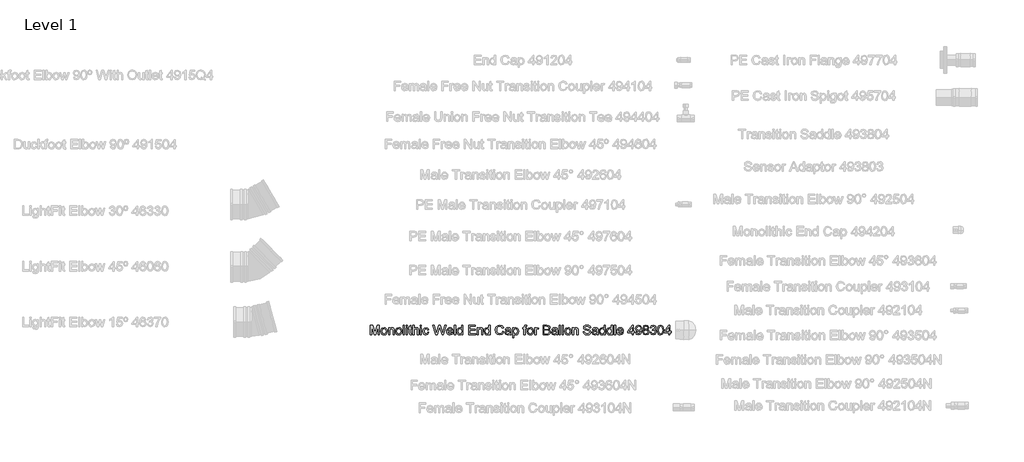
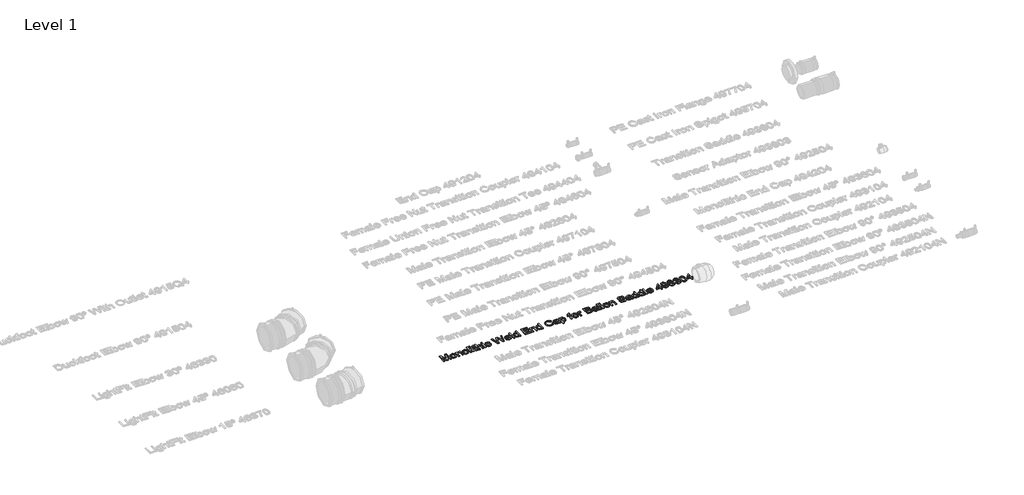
# One storey, part 21 of 38: 1 proxy.
"""IFC4 building model written with IfcOpenShell, lengths in millimetres."""

from ifc_helpers import new_model, si_unit, origin, origin_with_axes, place, context, project, spatial, polyline, outline, extrude, element, save

model = new_model("IFC4")

# Units and contexts
model_context = context("Model", 3, world=origin())
ifc_project = project(units=[si_unit("LENGTHUNIT", "METRE", prefix="MILLI")], contexts=[model_context])

# Site, building, storey
site = spatial("IfcSite", under=ifc_project)
building = spatial("IfcBuilding", under=site)
storey = spatial("IfcBuildingStorey", under=building, Name="Level 1", Elevation=0.0)

# Proxy
placement = place(None, origin())
element("IfcBuildingElementProxy", 1, Name="100 mm Arial", ObjectType="100 mm Arial", at=placement, inside=storey, context=model_context, shape_type="SweptSolid", body=[
    extrude(outline(polyline([(15387.7364754, 3414.6281205), (15387.7364754, 3473.7050436), (15400.4432062, 3473.7050436), (15412.5297447, 3432.0656205), (15414.9672447, 3423.3685051), (15417.6066677, 3432.7867743), (15429.4912831, 3473.7050436), (15442.1980139, 3473.7050436), (15442.1980139, 3414.6281205), (15434.8133985, 3414.6281205), (15434.8133985, 3466.3204282), (15419.9720524, 3414.6281205), (15409.962437, 3414.6281205), (15395.1210908, 3466.3204282), (15395.1210908, 3414.6281205), (15387.7364754, 3414.6281205)])), origin_with_axes(), (0.0, 0.0, 1.0), 5.0),
    extrude(outline(polyline([(15452.3518601, 3436.3204282), (15453.9492158, 3446.7807647), (15458.7412831, 3454.1329282), (15471.7508985, 3458.9358128), (15479.508711, 3457.4736734), (15485.7052254, 3453.0872551), (15489.7671245, 3446.1227118), (15491.1210908, 3436.9261974), (15488.7268601, 3423.7867743), (15481.7533024, 3416.3516782), (15471.7508985, 3413.7050436), (15463.899336, 3415.1617743), (15457.7100331, 3419.5319666), (15453.6914033, 3426.6425436), (15452.3518601, 3436.3204282)]), holes=[polyline([(15459.7364754, 3436.3348513), (15463.1547447, 3424.8901397), (15471.7508985, 3421.0896589), (15480.3182062, 3424.9117743), (15483.7364754, 3436.5656205), (15480.2965716, 3447.7507166), (15471.7508985, 3451.5511974), (15463.1547447, 3447.7651397), (15459.7364754, 3436.3348513)])]), origin_with_axes(), (0.0, 0.0, 1.0), 5.0),
    extrude(outline(polyline([(15499.4287831, 3414.6281205), (15499.4287831, 3458.0127359), (15506.8133985, 3458.0127359), (15506.8133985, 3451.9550436), (15512.4600331, 3457.1906205), (15520.1691677, 3458.9358128), (15527.1427254, 3457.5295628), (15531.9023408, 3453.8372551), (15534.1162831, 3448.4069666), (15534.5057062, 3441.2675436), (15534.5057062, 3414.6281205), (15527.1210908, 3414.6281205), (15527.1210908, 3440.2723513), (15526.2701293, 3446.8060051), (15523.2629177, 3450.260332), (15518.1932062, 3451.5511974), (15510.181187, 3448.6521589), (15506.8133985, 3437.6473513), (15506.8133985, 3414.6281205), (15499.4287831, 3414.6281205)])), origin_with_axes(), (0.0, 0.0, 1.0), 5.0),
    extrude(outline(polyline([(15542.8133985, 3436.3204282), (15544.4107543, 3446.7807647), (15549.2028216, 3454.1329282), (15562.212437, 3458.9358128), (15569.9702495, 3457.4736734), (15576.1667639, 3453.0872551), (15580.2286629, 3446.1227118), (15581.5826293, 3436.9261974), (15579.1883985, 3423.7867743), (15572.2148408, 3416.3516782), (15562.212437, 3413.7050436), (15554.3608745, 3415.1617743), (15548.1715716, 3419.5319666), (15544.1529418, 3426.6425436), (15542.8133985, 3436.3204282)]), holes=[polyline([(15550.1980139, 3436.3348513), (15553.6162831, 3424.8901397), (15562.212437, 3421.0896589), (15570.7797447, 3424.9117743), (15574.1980139, 3436.5656205), (15570.7581101, 3447.7507166), (15562.212437, 3451.5511974), (15553.6162831, 3447.7651397), (15550.1980139, 3436.3348513)])]), origin_with_axes(), (0.0, 0.0, 1.0), 5.0),
    extrude(outline(polyline([(15589.8903216, 3414.6281205), (15589.8903216, 3473.7050436), (15597.274937, 3473.7050436), (15597.274937, 3414.6281205), (15589.8903216, 3414.6281205)])), origin_with_axes(), (0.0, 0.0, 1.0), 5.0),
    extrude(outline(polyline([(15608.3518601, 3466.3204282), (15608.3518601, 3473.7050436), (15615.7364754, 3473.7050436), (15615.7364754, 3466.3204282), (15608.3518601, 3466.3204282)])), origin_with_axes(), (0.0, 0.0, 1.0), 5.0),
    extrude(outline(polyline([(15608.3518601, 3414.6281205), (15608.3518601, 3458.0127359), (15615.7364754, 3458.0127359), (15615.7364754, 3414.6281205), (15608.3518601, 3414.6281205)])), origin_with_axes(), (0.0, 0.0, 1.0), 5.0),
    extrude(outline(polyline([(15642.5057062, 3420.7867743), (15643.4287831, 3414.4117743), (15637.9047447, 3413.7050436), (15631.7172447, 3414.9310051), (15628.6307062, 3418.1473513), (15627.7364754, 3426.5271589), (15627.7364754, 3450.6281205), (15622.1980139, 3450.6281205), (15622.1980139, 3458.0127359), (15627.7364754, 3458.0127359), (15627.7364754, 3468.5560051), (15635.1210908, 3472.8973513), (15635.1210908, 3458.0127359), (15642.5057062, 3458.0127359), (15642.5057062, 3450.6281205), (15635.1210908, 3450.6281205), (15635.1210908, 3426.7435051), (15635.5105139, 3422.9358128), (15636.7725331, 3421.5872551), (15639.2893601, 3421.0896589), (15642.5057062, 3420.7867743)])), origin_with_axes(), (0.0, 0.0, 1.0), 5.0),
    extrude(outline(polyline([(15649.8903216, 3414.6281205), (15649.8903216, 3473.7050436), (15657.274937, 3473.7050436), (15657.274937, 3451.9838897), (15663.0333504, 3457.197832), (15670.1258985, 3458.9358128), (15678.4191677, 3457.0391782), (15683.4528216, 3451.7963897), (15684.9672447, 3442.0896589), (15684.9672447, 3414.6281205), (15677.5826293, 3414.6281205), (15677.5826293, 3441.3252359), (15675.2316677, 3449.1136974), (15668.5682062, 3451.5511974), (15662.5177254, 3449.9069666), (15658.4792639, 3445.4502359), (15657.274937, 3437.6761974), (15657.274937, 3414.6281205), (15649.8903216, 3414.6281205)])), origin_with_axes(), (0.0, 0.0, 1.0), 5.0),
    extrude(outline(polyline([(15695.1210908, 3466.3204282), (15695.1210908, 3473.7050436), (15702.5057062, 3473.7050436), (15702.5057062, 3466.3204282), (15695.1210908, 3466.3204282)])), origin_with_axes(), (0.0, 0.0, 1.0), 5.0),
    extrude(outline(polyline([(15695.1210908, 3414.6281205), (15695.1210908, 3458.0127359), (15702.5057062, 3458.0127359), (15702.5057062, 3414.6281205), (15695.1210908, 3414.6281205)])), origin_with_axes(), (0.0, 0.0, 1.0), 5.0),
    extrude(outline(polyline([(15741.274937, 3430.3204282), (15748.6595524, 3429.3973513), (15742.7316677, 3417.8661013), (15731.0201293, 3413.7050436), (15723.164961, 3415.1563657), (15717.0225331, 3419.510332), (15713.0579899, 3426.5758368), (15711.7364754, 3436.1617743), (15713.993687, 3448.4286013), (15720.8734947, 3456.3108128), (15730.9191677, 3458.9358128), (15742.1475331, 3455.3300436), (15747.7364754, 3445.0896589), (15740.3518601, 3444.166582), (15736.9263793, 3449.697832), (15730.9768601, 3451.5511974), (15722.4167639, 3447.9021589), (15719.1210908, 3436.3636974), (15722.3446485, 3424.7170628), (15730.774937, 3421.0896589), (15737.7340716, 3423.354082), (15741.274937, 3430.3204282)])), origin_with_axes(), (0.0, 0.0, 1.0), 5.0),
    extrude(outline(polyline([(15789.6932062, 3414.6281205), (15773.5826293, 3473.7050436), (15781.1980139, 3473.7050436), (15790.5441677, 3434.8781205), (15793.4287831, 3422.8925436), (15796.5153216, 3433.4935051), (15808.2268601, 3473.7050436), (15819.2028216, 3473.7050436), (15827.712437, 3444.5560051), (15834.0441677, 3422.8925436), (15836.8422447, 3434.5319666), (15846.274937, 3473.7050436), (15853.8903216, 3473.7050436), (15837.7653216, 3414.6281205), (15829.8758985, 3414.6281205), (15815.712437, 3460.2050436), (15813.7364754, 3466.5656205), (15811.5153216, 3458.9069666), (15798.6066677, 3414.6281205), (15789.6932062, 3414.6281205)])), origin_with_axes(), (0.0, 0.0, 1.0), 5.0),
    extrude(outline(polyline([(15890.7268601, 3427.5511974), (15897.9672447, 3426.6281205), (15891.1956101, 3417.0944666), (15878.5826293, 3413.7050436), (15869.9179658, 3415.167183), (15863.2508985, 3419.5536013), (15858.9996966, 3426.5794426), (15857.5826293, 3435.9598513), (15859.0141197, 3445.6557647), (15863.3085908, 3452.9069666), (15869.8855139, 3457.4286013), (15878.1643601, 3458.9358128), (15886.1853937, 3457.432207), (15892.5946485, 3452.9213897), (15896.7971726, 3445.6846109), (15898.1980139, 3436.0031205), (15898.1547447, 3434.0127359), (15864.9672447, 3434.0127359), (15869.2148408, 3424.4213897), (15878.7268601, 3421.0896589), (15885.9672447, 3422.6329282), (15890.7268601, 3427.5511974)]), holes=[polyline([(15864.9672447, 3441.3973513), (15890.8133985, 3441.3973513), (15887.8566677, 3448.0896589), (15878.1355139, 3451.5511974), (15869.0417639, 3448.7891782), (15864.9672447, 3441.3973513)])]), origin_with_axes(), (0.0, 0.0, 1.0), 5.0),
    extrude(outline(polyline([(15905.5826293, 3414.6281205), (15905.5826293, 3473.7050436), (15912.9672447, 3473.7050436), (15912.9672447, 3414.6281205), (15905.5826293, 3414.6281205)])), origin_with_axes(), (0.0, 0.0, 1.0), 5.0),
    extrude(outline(polyline([(15950.8133985, 3414.6281205), (15950.8133985, 3421.5944666), (15945.9275812, 3415.6773993), (15939.1739754, 3413.7050436), (15930.0297447, 3416.5608128), (15923.5682062, 3424.5295628), (15921.274937, 3436.2771589), (15923.3879177, 3448.0319666), (15929.7196485, 3456.1233128), (15939.1451293, 3458.9358128), (15945.9528216, 3456.9237936), (15950.8133985, 3451.6954282), (15950.8133985, 3473.7050436), (15958.1980139, 3473.7050436), (15958.1980139, 3414.6281205), (15950.8133985, 3414.6281205)]), holes=[polyline([(15928.6595524, 3436.3060051), (15931.9912831, 3424.8757166), (15939.8518601, 3421.0896589), (15947.618687, 3424.7026397), (15950.8133985, 3435.7435051), (15947.5609947, 3447.729082), (15939.5489754, 3451.5511974), (15931.774937, 3447.8805243), (15928.6595524, 3436.3060051)])]), origin_with_axes(), (0.0, 0.0, 1.0), 5.0),
    extrude(outline(polyline([(15993.274937, 3414.6281205), (15993.274937, 3473.7050436), (16035.7364754, 3473.7050436), (16035.7364754, 3466.3204282), (16000.6595524, 3466.3204282), (16000.6595524, 3448.7819666), (16033.8903216, 3448.7819666), (16033.8903216, 3441.3973513), (16000.6595524, 3441.3973513), (16000.6595524, 3422.0127359), (16036.6595524, 3422.0127359), (16036.6595524, 3414.6281205), (15993.274937, 3414.6281205)])), origin_with_axes(), (0.0, 0.0, 1.0), 5.0),
    extrude(outline(polyline([(16046.8133985, 3414.6281205), (16046.8133985, 3458.0127359), (16054.1980139, 3458.0127359), (16054.1980139, 3451.9550436), (16059.8446485, 3457.1906205), (16067.5537831, 3458.9358128), (16074.5273408, 3457.5295628), (16079.2869562, 3453.8372551), (16081.5008985, 3448.4069666), (16081.8903216, 3441.2675436), (16081.8903216, 3414.6281205), (16074.5057062, 3414.6281205), (16074.5057062, 3440.2723513), (16073.6547447, 3446.8060051), (16070.6475331, 3450.260332), (16065.5778216, 3451.5511974), (16057.5658024, 3448.6521589), (16054.1980139, 3437.6473513), (16054.1980139, 3414.6281205), (16046.8133985, 3414.6281205)])), origin_with_axes(), (0.0, 0.0, 1.0), 5.0),
    extrude(outline(polyline([(16118.8133985, 3414.6281205), (16118.8133985, 3421.5944666), (16113.9275812, 3415.6773993), (16107.1739754, 3413.7050436), (16098.0297447, 3416.5608128), (16091.5682062, 3424.5295628), (16089.274937, 3436.2771589), (16091.3879177, 3448.0319666), (16097.7196485, 3456.1233128), (16107.1451293, 3458.9358128), (16113.9528216, 3456.9237936), (16118.8133985, 3451.6954282), (16118.8133985, 3473.7050436), (16126.1980139, 3473.7050436), (16126.1980139, 3414.6281205), (16118.8133985, 3414.6281205)]), holes=[polyline([(16096.6595524, 3436.3060051), (16099.9912831, 3424.8757166), (16107.8518601, 3421.0896589), (16115.618687, 3424.7026397), (16118.8133985, 3435.7435051), (16115.5609947, 3447.729082), (16107.5489754, 3451.5511974), (16099.774937, 3447.8805243), (16096.6595524, 3436.3060051)])]), origin_with_axes(), (0.0, 0.0, 1.0), 5.0),
    extrude(outline(polyline([(16202.8133985, 3435.6281205), (16210.1980139, 3433.7242743), (16201.4432062, 3418.8324474), (16185.9816677, 3413.7050436), (16170.6138793, 3417.5848513), (16161.5994562, 3428.8204282), (16158.5057062, 3444.6136974), (16162.0033024, 3460.666582), (16171.9480139, 3471.072832), (16186.1403216, 3474.6281205), (16200.931187, 3470.0271589), (16209.274937, 3457.0752359), (16201.8903216, 3455.3156205), (16195.8326293, 3464.3949474), (16185.8518601, 3467.2435051), (16174.2989754, 3464.0848513), (16167.7725331, 3455.604082), (16165.8903216, 3444.6281205), (16168.118687, 3431.9069666), (16175.056187, 3423.7795628), (16185.2460908, 3421.0896589), (16196.5465716, 3424.7531205), (16202.8133985, 3435.6281205)])), origin_with_axes(), (0.0, 0.0, 1.0), 5.0),
    extrude(outline(polyline([(16247.1210908, 3420.166582), (16239.9600331, 3415.1617743), (16232.0489754, 3413.7050436), (16221.3254177, 3417.2098513), (16217.5826293, 3426.166582), (16218.9960908, 3432.0079282), (16222.7100331, 3436.2483128), (16227.8807062, 3438.6713897), (16234.2701293, 3439.7819666), (16247.0778216, 3442.3204282), (16247.1210908, 3443.9646589), (16245.087437, 3449.416582), (16236.9239754, 3451.5511974), (16229.4528216, 3450.1305243), (16225.8903216, 3445.0896589), (16218.5057062, 3446.0127359), (16221.7004177, 3453.2242743), (16228.1331101, 3457.4502359), (16237.8758985, 3458.9358128), (16246.8254177, 3457.6233128), (16251.8807062, 3454.3276397), (16254.1451293, 3449.3156205), (16254.5057062, 3442.854082), (16254.5057062, 3433.666582), (16254.8807062, 3420.8372551), (16256.3518601, 3414.6281205), (16248.9672447, 3414.6281205), (16247.1210908, 3420.166582)]), holes=[polyline([(16247.1210908, 3434.9358128), (16235.2076293, 3432.6713897), (16228.8542639, 3431.4742743), (16225.9768601, 3429.5271589), (16224.9672447, 3426.6858128), (16227.1667639, 3422.6906205), (16233.6210908, 3421.0896589), (16241.0922447, 3422.8564859), (16245.9095524, 3427.1329282), (16247.0778216, 3432.8444666), (16247.1210908, 3434.9358128)])]), origin_with_axes(), (0.0, 0.0, 1.0), 5.0),
    extrude(outline(polyline([(16264.6595524, 3398.0127359), (16264.6595524, 3458.0127359), (16272.0441677, 3458.0127359), (16272.0441677, 3450.7723513), (16277.149937, 3456.8949474), (16284.0441677, 3458.9358128), (16293.4047447, 3456.0800436), (16299.5201293, 3448.0319666), (16301.5826293, 3436.6521589), (16299.2533024, 3424.6882166), (16292.4888793, 3416.5391782), (16283.149937, 3413.7050436), (16276.7244562, 3415.6016782), (16272.0441677, 3420.3973513), (16272.0441677, 3398.0127359), (16264.6595524, 3398.0127359)]), holes=[polyline([(16272.0441677, 3435.9742743), (16275.2388793, 3424.7242743), (16282.9912831, 3421.0896589), (16290.9023408, 3424.854082), (16294.1980139, 3436.5223513), (16290.9816677, 3447.8011974), (16283.2941677, 3451.5511974), (16275.4552254, 3447.5632166), (16272.0441677, 3435.9742743)])]), origin_with_axes(), (0.0, 0.0, 1.0), 5.0),
    extrude(outline(polyline([(16334.8133985, 3414.6281205), (16334.8133985, 3450.6281205), (16328.3518601, 3450.6281205), (16328.3518601, 3458.0127359), (16334.8133985, 3458.0127359), (16334.8133985, 3462.3829282), (16335.5922447, 3468.541582), (16339.3710908, 3472.9406205), (16346.8133985, 3474.6281205), (16353.5489754, 3473.8204282), (16352.4672447, 3466.8973513), (16348.212437, 3467.2435051), (16343.5609947, 3466.0175436), (16342.1980139, 3461.4454282), (16342.1980139, 3458.0127359), (16350.5057062, 3458.0127359), (16350.5057062, 3450.6281205), (16342.1980139, 3450.6281205), (16342.1980139, 3414.6281205), (16334.8133985, 3414.6281205)])), origin_with_axes(), (0.0, 0.0, 1.0), 5.0),
    extrude(outline(polyline([(16355.1210908, 3436.3204282), (16356.7184466, 3446.7807647), (16361.5105139, 3454.1329282), (16374.5201293, 3458.9358128), (16382.2779418, 3457.4736734), (16388.4744562, 3453.0872551), (16392.5363552, 3446.1227118), (16393.8903216, 3436.9261974), (16391.4960908, 3423.7867743), (16384.5225331, 3416.3516782), (16374.5201293, 3413.7050436), (16366.6685668, 3415.1617743), (16360.4792639, 3419.5319666), (16356.4606341, 3426.6425436), (16355.1210908, 3436.3204282)]), holes=[polyline([(16362.5057062, 3436.3348513), (16365.9239754, 3424.8901397), (16374.5201293, 3421.0896589), (16383.087437, 3424.9117743), (16386.5057062, 3436.5656205), (16383.0658024, 3447.7507166), (16374.5201293, 3451.5511974), (16365.9239754, 3447.7651397), (16362.5057062, 3436.3348513)])]), origin_with_axes(), (0.0, 0.0, 1.0), 5.0),
    extrude(outline(polyline([(16402.1980139, 3414.6281205), (16402.1980139, 3458.0127359), (16408.6595524, 3458.0127359), (16408.6595524, 3451.5944666), (16413.2460908, 3457.5079282), (16417.8614754, 3458.9358128), (16425.274937, 3456.6569666), (16422.8085908, 3450.0367743), (16417.6162831, 3451.5511974), (16413.4408024, 3450.0944666), (16410.7797447, 3446.0560051), (16409.5826293, 3437.4310051), (16409.5826293, 3414.6281205), (16402.1980139, 3414.6281205)])), origin_with_axes(), (0.0, 0.0, 1.0), 5.0),
    extrude(outline(polyline([(16453.8903216, 3414.6281205), (16453.8903216, 3473.7050436), (16476.4335908, 3473.7050436), (16487.4744562, 3471.9670628), (16493.993687, 3466.6233128), (16496.3518601, 3459.0656205), (16494.368687, 3452.1641782), (16488.3758985, 3446.9358128), (16495.6523408, 3441.4261974), (16498.1980139, 3432.2386974), (16496.4600331, 3424.2987936), (16492.1547447, 3418.6449474), (16485.7292639, 3415.6449474), (16476.2605139, 3414.6281205), (16453.8903216, 3414.6281205)]), holes=[polyline([(16461.274937, 3449.7050436), (16474.7605139, 3449.7050436), (16482.6355139, 3450.3396589), (16487.3734947, 3453.072832), (16488.9672447, 3457.8829282), (16487.4816677, 3462.7002359), (16483.2268601, 3465.5487936), (16473.7364754, 3466.3204282), (16461.274937, 3466.3204282), (16461.274937, 3449.7050436)]), polyline([(16461.274937, 3422.0127359), (16476.4191677, 3422.0127359), (16481.899937, 3422.3011974), (16486.5369562, 3423.9093705), (16489.6090716, 3427.1906205), (16490.8133985, 3432.166582), (16489.399937, 3437.9069666), (16484.8206101, 3441.3324474), (16475.6980139, 3442.3204282), (16461.274937, 3442.3204282), (16461.274937, 3422.0127359)])]), origin_with_axes(), (0.0, 0.0, 1.0), 5.0),
    extrude(outline(polyline([(16535.1210908, 3420.166582), (16527.9600331, 3415.1617743), (16520.0489754, 3413.7050436), (16509.3254177, 3417.2098513), (16505.5826293, 3426.166582), (16506.9960908, 3432.0079282), (16510.7100331, 3436.2483128), (16515.8807062, 3438.6713897), (16522.2701293, 3439.7819666), (16535.0778216, 3442.3204282), (16535.1210908, 3443.9646589), (16533.087437, 3449.416582), (16524.9239754, 3451.5511974), (16517.4528216, 3450.1305243), (16513.8903216, 3445.0896589), (16506.5057062, 3446.0127359), (16509.7004177, 3453.2242743), (16516.1331101, 3457.4502359), (16525.8758985, 3458.9358128), (16534.8254177, 3457.6233128), (16539.8807062, 3454.3276397), (16542.1451293, 3449.3156205), (16542.5057062, 3442.854082), (16542.5057062, 3433.666582), (16542.8807062, 3420.8372551), (16544.3518601, 3414.6281205), (16536.9672447, 3414.6281205), (16535.1210908, 3420.166582)]), holes=[polyline([(16535.1210908, 3434.9358128), (16523.2076293, 3432.6713897), (16516.8542639, 3431.4742743), (16513.9768601, 3429.5271589), (16512.9672447, 3426.6858128), (16515.1667639, 3422.6906205), (16521.6210908, 3421.0896589), (16529.0922447, 3422.8564859), (16533.9095524, 3427.1329282), (16535.0778216, 3432.8444666), (16535.1210908, 3434.9358128)])]), origin_with_axes(), (0.0, 0.0, 1.0), 5.0),
    extrude(outline(polyline([(16552.6595524, 3414.6281205), (16552.6595524, 3473.7050436), (16560.0441677, 3473.7050436), (16560.0441677, 3414.6281205), (16552.6595524, 3414.6281205)])), origin_with_axes(), (0.0, 0.0, 1.0), 5.0),
    extrude(outline(polyline([(16571.1210908, 3414.6281205), (16571.1210908, 3473.7050436), (16578.5057062, 3473.7050436), (16578.5057062, 3414.6281205), (16571.1210908, 3414.6281205)])), origin_with_axes(), (0.0, 0.0, 1.0), 5.0),
    extrude(outline(polyline([(16587.7364754, 3436.3204282), (16589.3338312, 3446.7807647), (16594.1258985, 3454.1329282), (16607.1355139, 3458.9358128), (16614.8933264, 3457.4736734), (16621.0898408, 3453.0872551), (16625.1517399, 3446.1227118), (16626.5057062, 3436.9261974), (16624.1114754, 3423.7867743), (16617.1379177, 3416.3516782), (16607.1355139, 3413.7050436), (16599.2839514, 3415.1617743), (16593.0946485, 3419.5319666), (16589.0760187, 3426.6425436), (16587.7364754, 3436.3204282)]), holes=[polyline([(16595.1210908, 3436.3348513), (16598.5393601, 3424.8901397), (16607.1355139, 3421.0896589), (16615.7028216, 3424.9117743), (16619.1210908, 3436.5656205), (16615.681187, 3447.7507166), (16607.1355139, 3451.5511974), (16598.5393601, 3447.7651397), (16595.1210908, 3436.3348513)])]), origin_with_axes(), (0.0, 0.0, 1.0), 5.0),
    extrude(outline(polyline([(16634.8133985, 3414.6281205), (16634.8133985, 3458.0127359), (16642.1980139, 3458.0127359), (16642.1980139, 3451.9550436), (16647.8446485, 3457.1906205), (16655.5537831, 3458.9358128), (16662.5273408, 3457.5295628), (16667.2869562, 3453.8372551), (16669.5008985, 3448.4069666), (16669.8903216, 3441.2675436), (16669.8903216, 3414.6281205), (16662.5057062, 3414.6281205), (16662.5057062, 3440.2723513), (16661.6547447, 3446.8060051), (16658.6475331, 3450.260332), (16653.5778216, 3451.5511974), (16645.5658024, 3448.6521589), (16642.1980139, 3437.6473513), (16642.1980139, 3414.6281205), (16634.8133985, 3414.6281205)])), origin_with_axes(), (0.0, 0.0, 1.0), 5.0),
    extrude(outline(polyline([(16701.274937, 3434.9358128), (16708.6595524, 3434.9358128), (16711.0393601, 3427.5439859), (16716.8518601, 3422.8709089), (16725.7076293, 3421.0896589), (16733.4239754, 3422.4382166), (16738.4071485, 3426.1449474), (16740.0441677, 3431.0992743), (16738.8182062, 3435.7074474), (16733.7989754, 3439.0608128), (16723.0465716, 3441.8805243), (16711.4720524, 3445.5223513), (16705.1908024, 3451.0175436), (16703.1210908, 3458.3588897), (16705.681187, 3466.7170628), (16713.1595524, 3472.6161013), (16724.1066677, 3474.6281205), (16735.7893601, 3472.5223513), (16743.5778216, 3466.3348513), (16746.5057062, 3457.0896589), (16739.1210908, 3457.0896589), (16734.9383985, 3464.6761974), (16724.3951293, 3467.2435051), (16713.8230139, 3464.7050436), (16710.5057062, 3458.5752359), (16712.8566677, 3453.4550436), (16724.9143601, 3449.3300436), (16737.9816677, 3445.6233128), (16745.1283024, 3439.6377359), (16747.4287831, 3431.2867743), (16744.7821485, 3422.4526397), (16737.1667639, 3416.0055243), (16725.9960908, 3413.7050436), (16712.806187, 3416.1858128), (16704.462437, 3423.6569666), (16701.274937, 3434.9358128)])), origin_with_axes(), (0.0, 0.0, 1.0), 5.0),
    extrude(outline(polyline([(16785.274937, 3420.166582), (16778.1138793, 3415.1617743), (16770.2028216, 3413.7050436), (16759.4792639, 3417.2098513), (16755.7364754, 3426.166582), (16757.149937, 3432.0079282), (16760.8638793, 3436.2483128), (16766.0345524, 3438.6713897), (16772.4239754, 3439.7819666), (16785.2316677, 3442.3204282), (16785.274937, 3443.9646589), (16783.2412831, 3449.416582), (16775.0778216, 3451.5511974), (16767.6066677, 3450.1305243), (16764.0441677, 3445.0896589), (16756.6595524, 3446.0127359), (16759.8542639, 3453.2242743), (16766.2869562, 3457.4502359), (16776.0297447, 3458.9358128), (16784.9792639, 3457.6233128), (16790.0345524, 3454.3276397), (16792.2989754, 3449.3156205), (16792.6595524, 3442.854082), (16792.6595524, 3433.666582), (16793.0345524, 3420.8372551), (16794.5057062, 3414.6281205), (16787.1210908, 3414.6281205), (16785.274937, 3420.166582)]), holes=[polyline([(16785.274937, 3434.9358128), (16773.3614754, 3432.6713897), (16767.0081101, 3431.4742743), (16764.1307062, 3429.5271589), (16763.1210908, 3426.6858128), (16765.3206101, 3422.6906205), (16771.774937, 3421.0896589), (16779.2460908, 3422.8564859), (16784.0633985, 3427.1329282), (16785.2316677, 3432.8444666), (16785.274937, 3434.9358128)])]), origin_with_axes(), (0.0, 0.0, 1.0), 5.0),
    extrude(outline(polyline([(16829.5826293, 3414.6281205), (16829.5826293, 3421.5944666), (16824.696812, 3415.6773993), (16817.9432062, 3413.7050436), (16808.7989754, 3416.5608128), (16802.337437, 3424.5295628), (16800.0441677, 3436.2771589), (16802.1571485, 3448.0319666), (16808.4888793, 3456.1233128), (16817.9143601, 3458.9358128), (16824.7220524, 3456.9237936), (16829.5826293, 3451.6954282), (16829.5826293, 3473.7050436), (16836.9672447, 3473.7050436), (16836.9672447, 3414.6281205), (16829.5826293, 3414.6281205)]), holes=[polyline([(16807.4287831, 3436.3060051), (16810.7605139, 3424.8757166), (16818.6210908, 3421.0896589), (16826.3879177, 3424.7026397), (16829.5826293, 3435.7435051), (16826.3302254, 3447.729082), (16818.3182062, 3451.5511974), (16810.5441677, 3447.8805243), (16807.4287831, 3436.3060051)])]), origin_with_axes(), (0.0, 0.0, 1.0), 5.0),
    extrude(outline(polyline([(16874.8133985, 3414.6281205), (16874.8133985, 3421.5944666), (16869.9275812, 3415.6773993), (16863.1739754, 3413.7050436), (16854.0297447, 3416.5608128), (16847.5682062, 3424.5295628), (16845.274937, 3436.2771589), (16847.3879177, 3448.0319666), (16853.7196485, 3456.1233128), (16863.1451293, 3458.9358128), (16869.9528216, 3456.9237936), (16874.8133985, 3451.6954282), (16874.8133985, 3473.7050436), (16882.1980139, 3473.7050436), (16882.1980139, 3414.6281205), (16874.8133985, 3414.6281205)]), holes=[polyline([(16852.6595524, 3436.3060051), (16855.9912831, 3424.8757166), (16863.8518601, 3421.0896589), (16871.618687, 3424.7026397), (16874.8133985, 3435.7435051), (16871.5609947, 3447.729082), (16863.5489754, 3451.5511974), (16855.774937, 3447.8805243), (16852.6595524, 3436.3060051)])]), origin_with_axes(), (0.0, 0.0, 1.0), 5.0),
    extrude(outline(polyline([(16893.274937, 3414.6281205), (16893.274937, 3473.7050436), (16900.6595524, 3473.7050436), (16900.6595524, 3414.6281205), (16893.274937, 3414.6281205)])), origin_with_axes(), (0.0, 0.0, 1.0), 5.0),
    extrude(outline(polyline([(16942.1114754, 3427.5511974), (16949.3518601, 3426.6281205), (16942.5802254, 3417.0944666), (16929.9672447, 3413.7050436), (16921.3025812, 3415.167183), (16914.6355139, 3419.5536013), (16910.384312, 3426.5794426), (16908.9672447, 3435.9598513), (16910.3987351, 3445.6557647), (16914.6932062, 3452.9069666), (16921.2701293, 3457.4286013), (16929.5489754, 3458.9358128), (16937.5700091, 3457.432207), (16943.9792639, 3452.9213897), (16948.1817879, 3445.6846109), (16949.5826293, 3436.0031205), (16949.5393601, 3434.0127359), (16916.3518601, 3434.0127359), (16920.5994562, 3424.4213897), (16930.1114754, 3421.0896589), (16937.3518601, 3422.6329282), (16942.1114754, 3427.5511974)]), holes=[polyline([(16916.3518601, 3441.3973513), (16942.1980139, 3441.3973513), (16939.2412831, 3448.0896589), (16929.5201293, 3451.5511974), (16920.4263793, 3448.7891782), (16916.3518601, 3441.3973513)])]), origin_with_axes(), (0.0, 0.0, 1.0), 5.0),
    extrude(outline(polyline([(17002.1980139, 3414.6281205), (17002.1980139, 3428.4742743), (16975.4287831, 3428.4742743), (16975.4287831, 3435.8588897), (17004.0441677, 3472.7819666), (17009.5826293, 3472.7819666), (17009.5826293, 3435.8588897), (17016.9672447, 3435.8588897), (17016.9672447, 3428.4742743), (17009.5826293, 3428.4742743), (17009.5826293, 3414.6281205), (17002.1980139, 3414.6281205)]), holes=[polyline([(17002.1980139, 3435.8588897), (17002.1980139, 3458.6761974), (16984.5153216, 3435.8588897), (17002.1980139, 3435.8588897)])]), origin_with_axes(), (0.0, 0.0, 1.0), 5.0),
    extrude(outline(polyline([(17024.3518601, 3429.3973513), (17031.7364754, 3430.3204282), (17035.0537831, 3423.2747551), (17041.3422447, 3421.0896589), (17047.3206101, 3422.4959089), (17051.3734947, 3426.2531205), (17053.7893601, 3432.6713897), (17054.8566677, 3441.2386974), (17048.9071485, 3437.0848513), (17040.8085908, 3434.9358128), (17028.4696485, 3440.1858128), (17023.4287831, 3454.0175436), (17028.7148408, 3468.2963897), (17041.962437, 3473.7050436), (17052.4840716, 3470.6185051), (17059.7244562, 3461.8204282), (17062.1980139, 3445.291582), (17059.7316677, 3427.3564859), (17052.3975331, 3417.1954282), (17040.9960908, 3413.7050436), (17029.6451293, 3417.822832), (17024.3518601, 3429.3973513)]), holes=[polyline([(17054.8133985, 3454.1906205), (17051.6258985, 3463.0463897), (17043.1595524, 3466.3204282), (17034.274937, 3462.7939859), (17030.8133985, 3453.6569666), (17034.087437, 3445.4718705), (17042.9576293, 3442.3204282), (17051.4744562, 3445.4718705), (17054.8133985, 3454.1906205)])]), origin_with_axes(), (0.0, 0.0, 1.0), 5.0),
    extrude(outline(polyline([(17079.4191677, 3447.166582), (17072.6908024, 3451.7531205), (17070.5057062, 3458.8925436), (17075.2653216, 3469.4358128), (17087.9432062, 3473.7050436), (17100.7364754, 3469.3348513), (17105.5826293, 3458.6906205), (17103.4263793, 3451.7314859), (17096.8855139, 3447.166582), (17104.7388793, 3441.3757166), (17107.4287831, 3431.8204282), (17102.0922447, 3418.9261974), (17088.0441677, 3413.7050436), (17073.9960908, 3418.947832), (17068.6595524, 3432.0223513), (17071.4576293, 3441.8011974), (17079.4191677, 3447.166582)]), holes=[polyline([(17077.8903216, 3458.6761974), (17080.5081101, 3452.8781205), (17088.1307062, 3450.6281205), (17095.6018601, 3452.8636974), (17098.1980139, 3458.3444666), (17095.5153216, 3464.0199474), (17088.0441677, 3466.3204282), (17080.5513793, 3464.0704282), (17077.8903216, 3458.6761974)]), polyline([(17076.0441677, 3432.2819666), (17077.2773408, 3426.7218705), (17081.6403216, 3422.5608128), (17088.1018601, 3421.0896589), (17096.899937, 3424.1834089), (17100.0441677, 3432.0511974), (17096.7989754, 3440.0704282), (17087.8566677, 3443.2435051), (17079.1667639, 3440.1136974), (17076.0441677, 3432.2819666)])]), origin_with_axes(), (0.0, 0.0, 1.0), 5.0),
    extrude(outline(polyline([(17113.8903216, 3430.3204282), (17121.274937, 3431.2435051), (17125.3494562, 3423.4694666), (17132.9720524, 3421.0896589), (17141.9432062, 3424.3636974), (17145.274937, 3432.4694666), (17141.9720524, 3440.1064859), (17133.5778216, 3443.1281205), (17128.399937, 3442.3204282), (17129.2220524, 3449.7050436), (17138.7845524, 3451.7386974), (17142.5057062, 3458.2579282), (17139.8085908, 3464.0343705), (17132.8566677, 3466.3204282), (17125.8182062, 3464.0127359), (17122.1980139, 3457.0896589), (17114.8133985, 3458.0127359), (17120.8566677, 3469.5944666), (17132.5970524, 3473.7050436), (17141.5033024, 3471.6786013), (17147.7340716, 3466.1401397), (17149.8903216, 3458.6906205), (17147.8422447, 3451.8829282), (17141.7845524, 3446.9935051), (17149.8326293, 3441.9454282), (17152.6595524, 3432.3396589), (17147.0057062, 3419.1281205), (17132.712437, 3413.7050436), (17119.7605139, 3418.3348513), (17113.8903216, 3430.3204282)])), origin_with_axes(), (0.0, 0.0, 1.0), 5.0),
    extrude(outline(polyline([(17159.1210908, 3443.6906205), (17161.2917639, 3460.6882166), (17167.7388793, 3470.4886974), (17178.5057062, 3473.7050436), (17187.1307062, 3471.8011974), (17193.087437, 3466.3132166), (17196.5489754, 3457.572832), (17197.8903216, 3443.6906205), (17195.7412831, 3426.7651397), (17189.3158024, 3416.9430243), (17178.5057062, 3413.7050436), (17170.8326293, 3415.1112936), (17165.0057062, 3419.3300436), (17160.5922447, 3429.3216301), (17159.1210908, 3443.6906205)]), holes=[polyline([(17166.5057062, 3443.7050436), (17169.9672447, 3425.3661013), (17178.5057062, 3421.0896589), (17187.0441677, 3425.3805243), (17190.5057062, 3443.7050436), (17187.1595524, 3461.8348513), (17178.4191677, 3466.3204282), (17170.0826293, 3462.3685051), (17166.5057062, 3443.7050436)])]), origin_with_axes(), (0.0, 0.0, 1.0), 5.0),
    extrude(outline(polyline([(17228.3518601, 3414.6281205), (17228.3518601, 3428.4742743), (17201.5826293, 3428.4742743), (17201.5826293, 3435.8588897), (17230.1980139, 3472.7819666), (17235.7364754, 3472.7819666), (17235.7364754, 3435.8588897), (17243.1210908, 3435.8588897), (17243.1210908, 3428.4742743), (17235.7364754, 3428.4742743), (17235.7364754, 3414.6281205), (17228.3518601, 3414.6281205)]), holes=[polyline([(17228.3518601, 3435.8588897), (17228.3518601, 3458.6761974), (17210.6691677, 3435.8588897), (17228.3518601, 3435.8588897)])]), origin_with_axes(), (0.0, 0.0, 1.0), 5.0),
])

save(model, "model.ifc")
